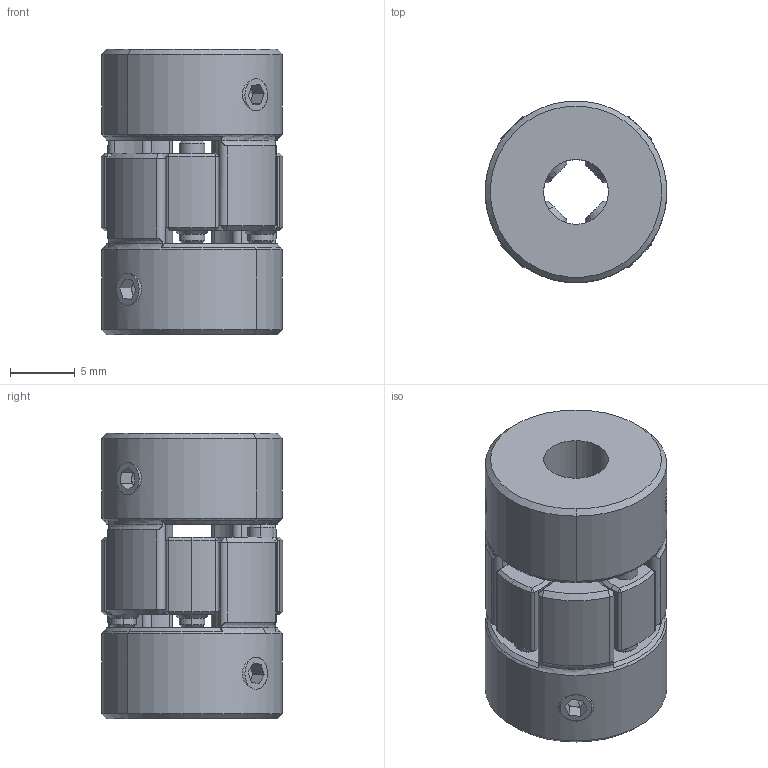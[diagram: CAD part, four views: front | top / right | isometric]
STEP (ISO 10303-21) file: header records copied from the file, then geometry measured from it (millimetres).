
FILE_DESCRIPTION (( 'STEP AP203' ), '1' );
FILE_NAME ('LF-D-D14L22-5-5.STEP', '2021-10-26T05:40:08', ( '' ), ( '' ), 'SwSTEP 2.0', 'SolidWorks 2018', '' );
FILE_SCHEMA (( 'CONFIG_CONTROL_DESIGN' ));
Length unit declared in the file: millimetre
Products named in the file (1): LF-D-D14L22-5-5
Bounding box: 14 x 14 x 22 mm (x, y, z)
Volume: 2695.6 mm3; surface area: 2148.1 mm2
Topology: 1 solids, 1 shells, 353 faces, 891 edges, 516 vertices
Faces by surface type: cone 164, cylinder 115, plane 66, torus 8
Entity records: 10855 total; most frequent: CARTESIAN_POINT 2248, DIRECTION 1923, ORIENTED_EDGE 1734, EDGE_CURVE 867, AXIS2_PLACEMENT_3D 776, VERTEX_POINT 516, CIRCLE 422, EDGE_LOOP 383
